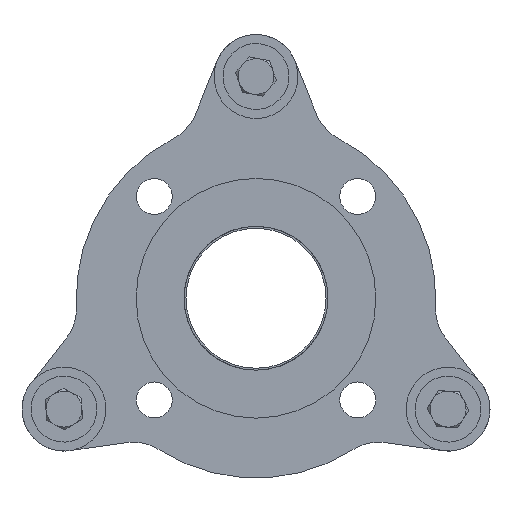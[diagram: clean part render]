
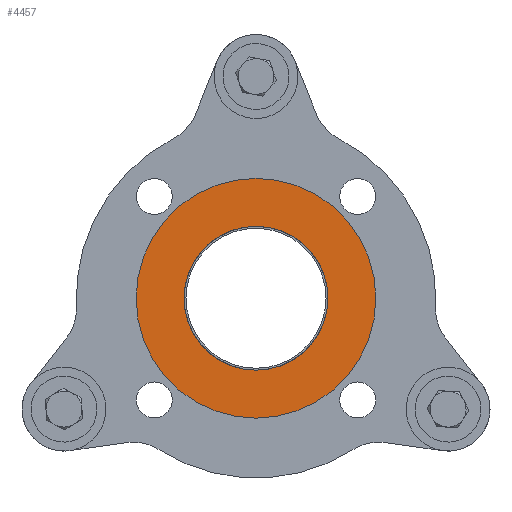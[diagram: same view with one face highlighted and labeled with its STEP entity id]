
A CAD part, front view. The second image highlights one B-rep face of the part: STEP entity #4457.
In plain terms, the highlighted planar face has unit normal (0, -1, 0).
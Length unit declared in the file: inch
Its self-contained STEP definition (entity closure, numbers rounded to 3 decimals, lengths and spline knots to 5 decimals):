
#484=PLANE('',#4861);
#648=FACE_BOUND('',#1231,.T.);
#873=FACE_OUTER_BOUND('',#1230,.T.);
#1230=EDGE_LOOP('',(#3094));
#1231=EDGE_LOOP('',(#3095));
#1759=CIRCLE('',#4857,1.5);
#1760=CIRCLE('',#4859,2.5);
#2075=VERTEX_POINT('',#6954);
#2076=VERTEX_POINT('',#6957);
#2493=EDGE_CURVE('',#2075,#2075,#1759,.T.);
#2494=EDGE_CURVE('',#2076,#2076,#1760,.T.);
#3094=ORIENTED_EDGE('',*,*,#2494,.T.);
#3095=ORIENTED_EDGE('',*,*,#2493,.T.);
#4457=ADVANCED_FACE('',(#873,#648),#484,.T.);
#4857=AXIS2_PLACEMENT_3D('',#6955,#5604,#5605);
#4859=AXIS2_PLACEMENT_3D('',#6958,#5608,#5609);
#4861=AXIS2_PLACEMENT_3D('',#6961,#5612,#5613);
#5604=DIRECTION('center_axis',(0.,1.,0.));
#5605=DIRECTION('ref_axis',(-1.,0.,0.));
#5608=DIRECTION('center_axis',(0.,-1.,0.));
#5609=DIRECTION('ref_axis',(1.,0.,0.));
#5612=DIRECTION('center_axis',(0.,-1.,0.));
#5613=DIRECTION('ref_axis',(0.,0.,
1.));
#6954=CARTESIAN_POINT('',(-1.5,0.,0.));
#6955=CARTESIAN_POINT('Origin',(0.,0.,
0.));
#6957=CARTESIAN_POINT('',(-2.5,0.,0.));
#6958=CARTESIAN_POINT('Origin',(0.,0.,
0.));
#6961=CARTESIAN_POINT('Origin',(0.,0.,
0.));
